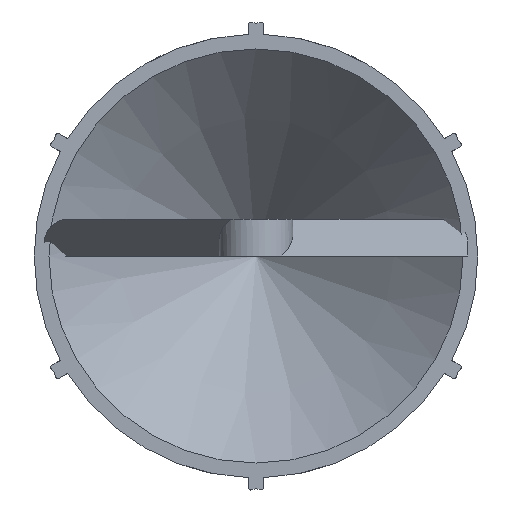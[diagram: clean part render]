
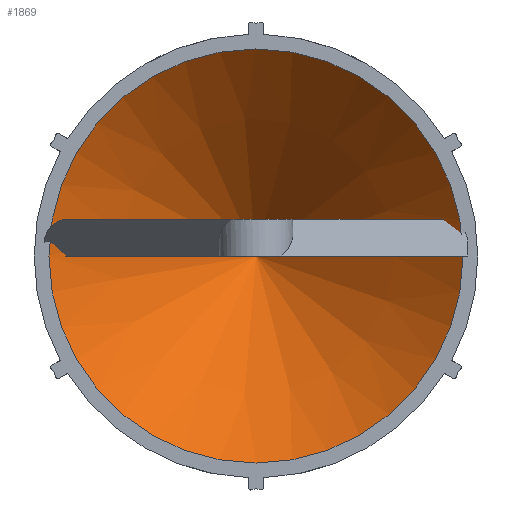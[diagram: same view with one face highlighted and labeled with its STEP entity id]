
A CAD part, front view. The second image highlights one B-rep face of the part: STEP entity #1869.
In plain terms, the highlighted conical face has half-angle 45 degrees and reference radius 21 mm.
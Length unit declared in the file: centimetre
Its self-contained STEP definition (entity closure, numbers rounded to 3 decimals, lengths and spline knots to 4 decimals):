
#820=EDGE_CURVE('',#1600,#1600,#2594,.T.);
#1040=ORIENTED_EDGE('',*,*,#820,.F.);
#1480=EDGE_LOOP('',(#1040));
#1598=VERTEX_LOOP('',#1599);
#1599=VERTEX_POINT('',#4065);
#1600=VERTEX_POINT('',#4067);
#1750=FACE_BOUND('',#1598,.T.);
#1751=FACE_BOUND('',#1480,.T.);
#1869=ADVANCED_FACE('',(#1750,#1751),#1964,.F.);
#1964=CONICAL_SURFACE('',#3342,2.1,0.785);
#2594=CIRCLE('',#3343,4.2);
#3342=AXIS2_PLACEMENT_3D('',#4064,#5688,#5689);
#3343=AXIS2_PLACEMENT_3D('',#4066,#5690,#5691);
#4064=CARTESIAN_POINT('',(0.,2.1,0.));
#4065=CARTESIAN_POINT('',(0.,4.2,0.));
#4066=CARTESIAN_POINT('',(0.,0.,0.));
#4067=CARTESIAN_POINT('',(4.2,0.,0.));
#5688=DIRECTION('',(0.,-1.,0.));
#5689=DIRECTION('',(2.1,0.,0.));
#5690=DIRECTION('',(0.,1.,0.));
#5691=DIRECTION('',(4.2,0.,0.));
